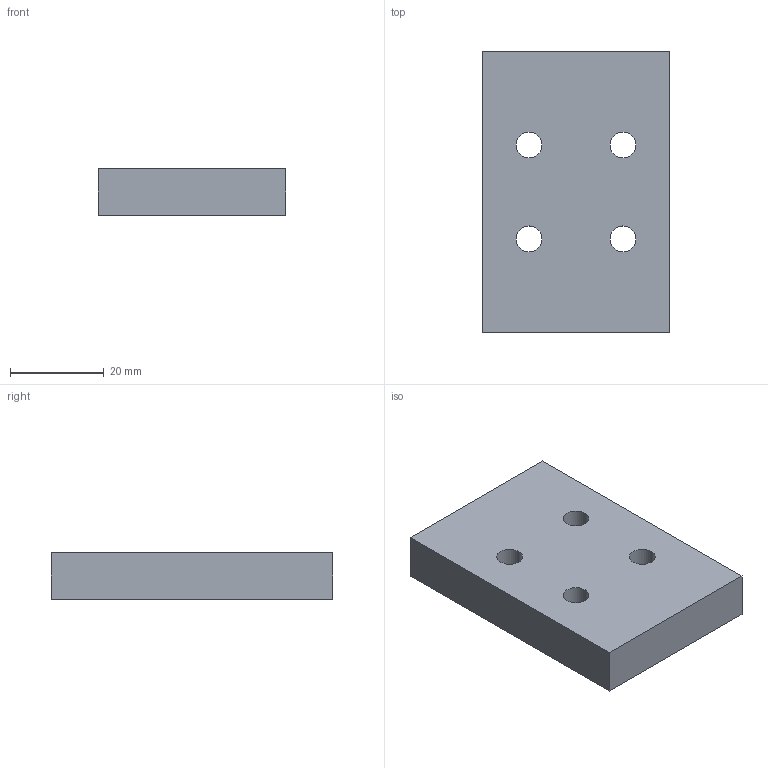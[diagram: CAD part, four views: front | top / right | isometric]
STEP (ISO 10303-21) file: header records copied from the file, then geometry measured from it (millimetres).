
FILE_DESCRIPTION (( 'STEP AP214' ), '1' );
FILE_NAME ('µ××ù-V02.STEP', '2021-03-31T14:36:34', ( 'hp' ), ( '' ), 'SwSTEP 2.0', 'SolidWorks 2017', '' );
FILE_SCHEMA (( 'AUTOMOTIVE_DESIGN' ));
Length unit declared in the file: millimetre
Products named in the file (1): 菁釱-V02
Bounding box: 40 x 60 x 10 mm (x, y, z)
Volume: 23049.7 mm3; surface area: 7301.1 mm2
Topology: 1 solids, 1 shells, 14 faces, 36 edges, 24 vertices
Faces by surface type: cylinder 8, plane 6
Entity records: 486 total; most frequent: DIRECTION 82, CARTESIAN_POINT 75, ORIENTED_EDGE 72, EDGE_CURVE 36, AXIS2_PLACEMENT_3D 31, VERTEX_POINT 24, EDGE_LOOP 22, LINE 20
